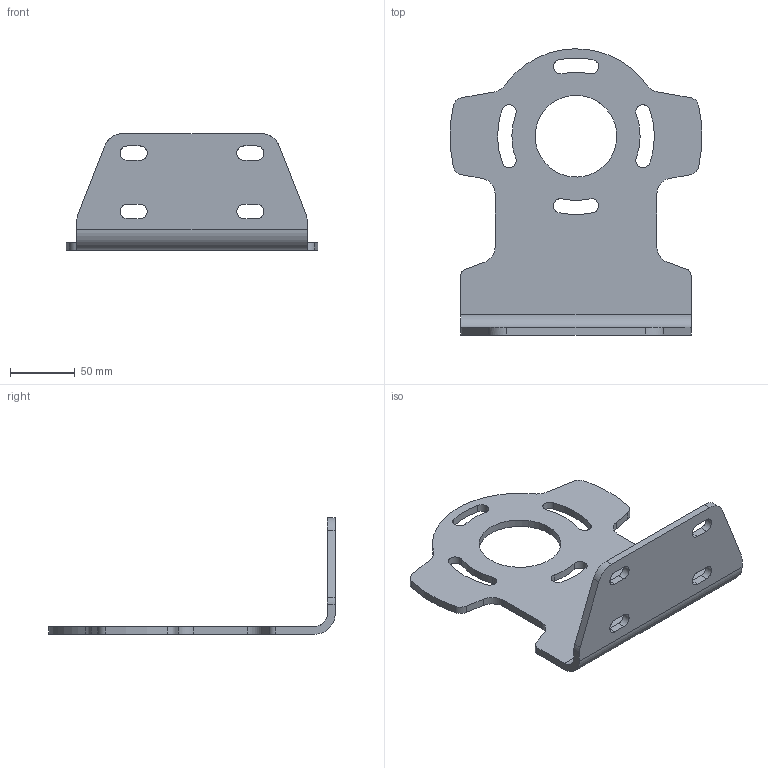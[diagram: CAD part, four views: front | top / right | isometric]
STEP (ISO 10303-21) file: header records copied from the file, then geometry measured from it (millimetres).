
FILE_DESCRIPTION(/* description */ (''),/* implementation_level */ '2;1');
FILE_NAME(/* name */ 'ROXX_NEO mini i_Mount 90°_3D_step',/* time_stamp */ '2025-07-25T13:46:01+02:00',/* author */ (''),/* organization */ (''),/* preprocessor_version */ 'ST-DEVELOPER v16.5',/* originating_system */ 'Rhino 7.38',/* authorisation */ '');
FILE_SCHEMA (('CONFIG_CONTROL_DESIGN'));
Length unit declared in the file: millimetre
Products named in the file (1): Document
Bounding box: 194.33 x 221.02 x 90 mm (x, y, z)
Volume: 239613.1 mm3; surface area: 90307.6 mm2
Topology: 1 solids, 1 shells, 72 faces, 210 edges, 140 vertices
Faces by surface type: cylinder 47, plane 25
Entity records: 2250 total; most frequent: CARTESIAN_POINT 804, ORIENTED_EDGE 420, EDGE_CURVE 210, VERTEX_POINT 140, B_SPLINE_CURVE_WITH_KNOTS 116, EDGE_LOOP 90, DIRECTION 76, AXIS2_PLACEMENT_3D 74
